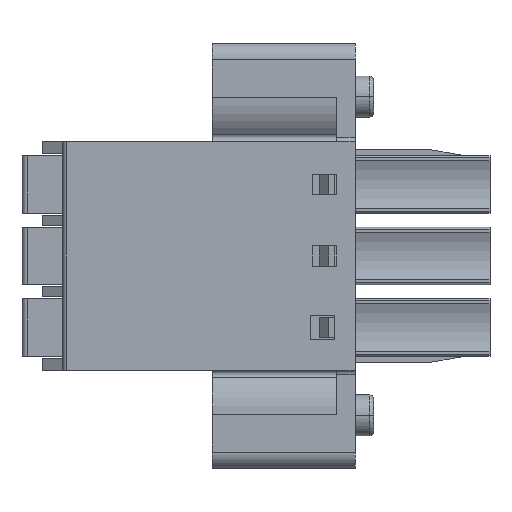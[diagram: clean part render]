
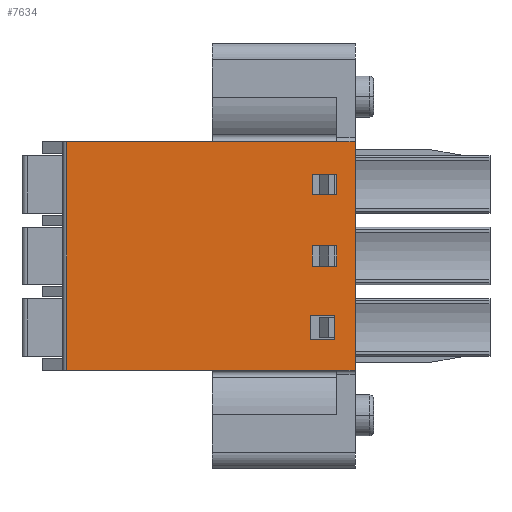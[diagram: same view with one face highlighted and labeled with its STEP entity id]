
A CAD part, left-side view. The second image highlights one B-rep face of the part: STEP entity #7634.
In plain terms, the highlighted planar face has unit normal (-1, 0, 0).
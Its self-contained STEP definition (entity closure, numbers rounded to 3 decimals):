
#1=DIRECTION('',(0.,0.,-1.));
#2=VECTOR('',#1,11.2);
#3=CARTESIAN_POINT('',(0.,0.,-4.8));
#4=LINE('',#3,#2);
#5=DIRECTION('',(0.,1.,0.));
#6=VECTOR('',#5,13.2);
#7=CARTESIAN_POINT('',(0.,0.9,-16.));
#8=LINE('',#7,#6);
#9=DIRECTION('',(0.,0.,-1.));
#10=VECTOR('',#9,1.2);
#11=CARTESIAN_POINT('',(0.,2.2,-13.3));
#12=LINE('',#11,#10);
#13=DIRECTION('',(0.,1.,0.));
#14=VECTOR('',#13,1.2);
#15=CARTESIAN_POINT('',(0.,0.9,-9.9));
#16=LINE('',#15,#14);
#17=DIRECTION('',(0.,0.,-1.));
#18=VECTOR('',#17,1.);
#19=CARTESIAN_POINT('',(0.,2.1,-9.9));
#20=LINE('',#19,#18);
#21=DIRECTION('',(0.,-1.,0.));
#22=VECTOR('',#21,1.2);
#23=CARTESIAN_POINT('',(0.,2.1,-10.9));
#24=LINE('',#23,#22);
#25=DIRECTION('',(0.,0.,1.));
#26=VECTOR('',#25,1.);
#27=CARTESIAN_POINT('',(0.,0.9,-10.9));
#28=LINE('',#27,#26);
#29=DIRECTION('',(0.,1.,0.));
#30=VECTOR('',#29,1.2);
#31=CARTESIAN_POINT('',(0.,0.9,-6.4));
#32=LINE('',#31,#30);
#33=DIRECTION('',(0.,0.,-1.));
#34=VECTOR('',#33,1.);
#35=CARTESIAN_POINT('',(0.,2.1,-6.4));
#36=LINE('',#35,#34);
#37=DIRECTION('',(0.,-1.,0.));
#38=VECTOR('',#37,1.2);
#39=CARTESIAN_POINT('',(0.,2.1,-7.4));
#40=LINE('',#39,#38);
#41=DIRECTION('',(0.,0.,1.));
#42=VECTOR('',#41,1.);
#43=CARTESIAN_POINT('',(0.,0.9,-7.4));
#44=LINE('',#43,#42);
#1281=DIRECTION('',(0.,0.,-1.));
#1282=VECTOR('',#1281,11.2);
#1283=CARTESIAN_POINT('',(0.,14.1,-4.8));
#1284=LINE('',#1283,#1282);
#1323=DIRECTION('',(0.,1.,0.));
#1324=VECTOR('',#1323,13.2);
#1325=CARTESIAN_POINT('',(0.,0.9,-4.8));
#1326=LINE('',#1325,#1324);
#4402=DIRECTION('',(0.,1.,0.));
#4403=VECTOR('',#4402,0.9);
#4404=CARTESIAN_POINT('',(0.,0.,-4.8));
#4405=LINE('',#4404,#4403);
#5465=DIRECTION('',(0.,-1.,0.));
#5466=VECTOR('',#5465,0.9);
#5467=CARTESIAN_POINT('',(0.,0.9,-16.));
#5468=LINE('',#5467,#5466);
#5691=DIRECTION('',(0.,-1.,0.));
#5692=VECTOR('',#5691,1.2);
#5693=CARTESIAN_POINT('',(0.,2.2,-13.3));
#5694=LINE('',#5693,#5692);
#5791=DIRECTION('',(0.,0.,-1.));
#5792=VECTOR('',#5791,1.2);
#5793=CARTESIAN_POINT('',(0.,1.,-13.3));
#5794=LINE('',#5793,#5792);
#5815=DIRECTION('',(0.,1.,0.));
#5816=VECTOR('',#5815,1.2);
#5817=CARTESIAN_POINT('',(0.,1.,-14.5));
#5818=LINE('',#5817,#5816);
#5939=CARTESIAN_POINT('',(0.,0.,-4.8));
#5940=CARTESIAN_POINT('',(0.,0.,-16.));
#5941=VERTEX_POINT('',#5939);
#5942=VERTEX_POINT('',#5940);
#5943=CARTESIAN_POINT('',(0.,0.9,-16.));
#5944=VERTEX_POINT('',#5943);
#5945=CARTESIAN_POINT('',(0.,14.1,-16.));
#5946=VERTEX_POINT('',#5945);
#5947=CARTESIAN_POINT('',(0.,14.1,-4.8));
#5948=VERTEX_POINT('',#5947);
#5949=CARTESIAN_POINT('',(0.,0.9,-4.8));
#5950=VERTEX_POINT('',#5949);
#5951=CARTESIAN_POINT('',(0.,2.2,-13.3));
#5952=CARTESIAN_POINT('',(0.,1.,-13.3));
#5953=VERTEX_POINT('',#5951);
#5954=VERTEX_POINT('',#5952);
#5955=CARTESIAN_POINT('',(0.,2.2,-14.5));
#5956=VERTEX_POINT('',#5955);
#5957=CARTESIAN_POINT('',(0.,1.,-14.5));
#5958=VERTEX_POINT('',#5957);
#5959=CARTESIAN_POINT('',(0.,0.9,-9.9));
#5960=CARTESIAN_POINT('',(0.,2.1,-9.9));
#5961=VERTEX_POINT('',#5959);
#5962=VERTEX_POINT('',#5960);
#5963=CARTESIAN_POINT('',(0.,2.1,-10.9));
#5964=VERTEX_POINT('',#5963);
#5965=CARTESIAN_POINT('',(0.,0.9,-10.9));
#5966=VERTEX_POINT('',#5965);
#5967=CARTESIAN_POINT('',(0.,0.9,-6.4));
#5968=CARTESIAN_POINT('',(0.,2.1,-6.4));
#5969=VERTEX_POINT('',#5967);
#5970=VERTEX_POINT('',#5968);
#5971=CARTESIAN_POINT('',(0.,2.1,-7.4));
#5972=VERTEX_POINT('',#5971);
#5973=CARTESIAN_POINT('',(0.,0.9,-7.4));
#5974=VERTEX_POINT('',#5973);
#7585=CARTESIAN_POINT('',(0.,14.3,-33.15));
#7586=DIRECTION('',(-1.,0.,0.));
#7587=DIRECTION('',(0.,-1.,0.));
#7588=AXIS2_PLACEMENT_3D('',#7585,#7586,#7587);
#7589=PLANE('',#7588);
#7591=ORIENTED_EDGE('',*,*,#7590,.T.);
#7593=ORIENTED_EDGE('',*,*,#7592,.F.);
#7595=ORIENTED_EDGE('',*,*,#7594,.T.);
#7597=ORIENTED_EDGE('',*,*,#7596,.F.);
#7599=ORIENTED_EDGE('',*,*,#7598,.F.);
#7601=ORIENTED_EDGE('',*,*,#7600,.F.);
#7602=EDGE_LOOP('',(#7591,#7593,#7595,#7597,#7599,#7601));
#7603=FACE_OUTER_BOUND('',#7602,.F.);
#7605=ORIENTED_EDGE('',*,*,#7604,.F.);
#7607=ORIENTED_EDGE('',*,*,#7606,.T.);
#7609=ORIENTED_EDGE('',*,*,#7608,.F.);
#7611=ORIENTED_EDGE('',*,*,#7610,.F.);
#7612=EDGE_LOOP('',(#7605,#7607,#7609,#7611));
#7613=FACE_BOUND('',#7612,.F.);
#7615=ORIENTED_EDGE('',*,*,#7614,.T.);
#7617=ORIENTED_EDGE('',*,*,#7616,.T.);
#7619=ORIENTED_EDGE('',*,*,#7618,.T.);
#7621=ORIENTED_EDGE('',*,*,#7620,.T.);
#7622=EDGE_LOOP('',(#7615,#7617,#7619,#7621));
#7623=FACE_BOUND('',#7622,.F.);
#7625=ORIENTED_EDGE('',*,*,#7624,.T.);
#7627=ORIENTED_EDGE('',*,*,#7626,.T.);
#7629=ORIENTED_EDGE('',*,*,#7628,.T.);
#7631=ORIENTED_EDGE('',*,*,#7630,.T.);
#7632=EDGE_LOOP('',(#7625,#7627,#7629,#7631));
#7633=FACE_BOUND('',#7632,.F.);
#7634=ADVANCED_FACE('',(#7603,#7613,#7623,#7633),#7589,.T.);
#7590=EDGE_CURVE('',#5941,#5942,#4,.T.);
#7592=EDGE_CURVE('',#5944,#5942,#5468,.T.);
#7594=EDGE_CURVE('',#5944,#5946,#8,.T.);
#7596=EDGE_CURVE('',#5948,#5946,#1284,.T.);
#7598=EDGE_CURVE('',#5950,#5948,#1326,.T.);
#7600=EDGE_CURVE('',#5941,#5950,#4405,.T.);
#7604=EDGE_CURVE('',#5953,#5954,#5694,.T.);
#7606=EDGE_CURVE('',#5953,#5956,#12,.T.);
#7608=EDGE_CURVE('',#5958,#5956,#5818,.T.);
#7610=EDGE_CURVE('',#5954,#5958,#5794,.T.);
#7614=EDGE_CURVE('',#5961,#5962,#16,.T.);
#7616=EDGE_CURVE('',#5962,#5964,#20,.T.);
#7618=EDGE_CURVE('',#5964,#5966,#24,.T.);
#7620=EDGE_CURVE('',#5966,#5961,#28,.T.);
#7624=EDGE_CURVE('',#5969,#5970,#32,.T.);
#7626=EDGE_CURVE('',#5970,#5972,#36,.T.);
#7628=EDGE_CURVE('',#5972,#5974,#40,.T.);
#7630=EDGE_CURVE('',#5974,#5969,#44,.T.);
